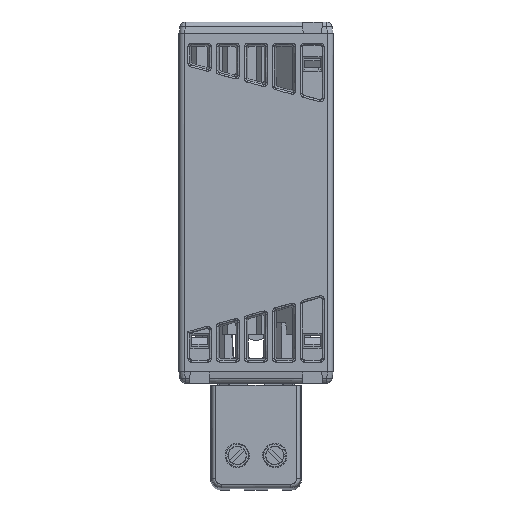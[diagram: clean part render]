
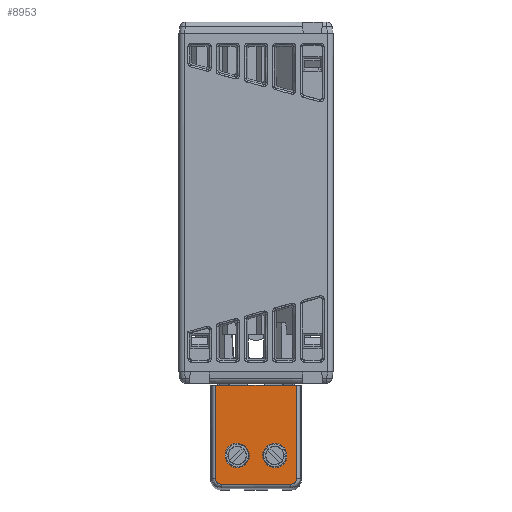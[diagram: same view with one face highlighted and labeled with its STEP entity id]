
A CAD part, front view. The second image highlights one B-rep face of the part: STEP entity #8953.
In plain terms, the highlighted planar face has unit normal (0, -1, 0).
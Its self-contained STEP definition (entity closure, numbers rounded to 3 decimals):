
#8953=ADVANCED_FACE('',(#10787,#10540,#10541),#40890,.T.);
#10540=FACE_BOUND('',#12468,.T.);
#10541=FACE_BOUND('',#12469,.T.);
#10787=FACE_OUTER_BOUND('',#12467,.T.);
#12467=EDGE_LOOP('',(#14674,#14675,#14676,#14677,#14678,#14679));
#12468=EDGE_LOOP('',(#14680));
#12469=EDGE_LOOP('',(#14681));
#14674=ORIENTED_EDGE('',*,*,#22883,.F.);
#14675=ORIENTED_EDGE('',*,*,#22885,.T.);
#14676=ORIENTED_EDGE('',*,*,#22953,.T.);
#14677=ORIENTED_EDGE('',*,*,#22884,.T.);
#14678=ORIENTED_EDGE('',*,*,#22882,.T.);
#14679=ORIENTED_EDGE('',*,*,#22881,.F.);
#14680=ORIENTED_EDGE('',*,*,#22869,.F.);
#14681=ORIENTED_EDGE('',*,*,#22872,.F.);
#22869=EDGE_CURVE('',#34949,#34949,#32642,.T.);
#22872=EDGE_CURVE('',#34951,#34951,#32644,.T.);
#22881=EDGE_CURVE('',#34957,#34958,#32653,.T.);
#22882=EDGE_CURVE('',#34959,#34958,#32654,.T.);
#22883=EDGE_CURVE('',#34960,#34957,#32655,.T.);
#22884=EDGE_CURVE('',#34994,#34959,#32656,.T.);
#22885=EDGE_CURVE('',#34960,#34993,#32657,.T.);
#22953=EDGE_CURVE('',#34993,#34994,#32693,.T.);
#32642=(
BOUNDED_CURVE()
B_SPLINE_CURVE(2,(#44512,#44513,#44514,#44515,#44516,#44517,#44518,#44519,
#44520),.UNSPECIFIED.,.T.,.F.)
B_SPLINE_CURVE_WITH_KNOTS((3,2,2,2,3),(0.,5.066,10.132,
15.197,20.263),.UNSPECIFIED.)
CURVE()
GEOMETRIC_REPRESENTATION_ITEM()
RATIONAL_B_SPLINE_CURVE((1.,0.707,1.,0.707,1.,0.707,
1.,0.707,1.))
REPRESENTATION_ITEM('')
);
#32644=(
BOUNDED_CURVE()
B_SPLINE_CURVE(2,(#44532,#44533,#44534,#44535,#44536,#44537,#44538,#44539,
#44540),.UNSPECIFIED.,.T.,.F.)
B_SPLINE_CURVE_WITH_KNOTS((3,2,2,2,3),(-20.263,-15.197,
-10.132,-5.066,0.),.UNSPECIFIED.)
CURVE()
GEOMETRIC_REPRESENTATION_ITEM()
RATIONAL_B_SPLINE_CURVE((1.,0.707,1.,0.707,1.,0.707,
1.,0.707,1.))
REPRESENTATION_ITEM('')
);
#32653=(
BOUNDED_CURVE()
B_SPLINE_CURVE(3,(#44578,#44579,#44580,#44581),.UNSPECIFIED.,.F.,.F.)
B_SPLINE_CURVE_WITH_KNOTS((4,4),(2.485,21.015),
 .UNSPECIFIED.)
CURVE()
GEOMETRIC_REPRESENTATION_ITEM()
RATIONAL_B_SPLINE_CURVE((1.,1.,1.,1.))
REPRESENTATION_ITEM('')
);
#32654=(
BOUNDED_CURVE()
B_SPLINE_CURVE(3,(#44582,#44583,#44584,#44585,#44586,#44587,#44588,#44589),
 .UNSPECIFIED.,.F.,.F.)
B_SPLINE_CURVE_WITH_KNOTS((4,1,1,1,1,4),(0.,0.57,1.14,
1.438,1.736,2.356),.UNSPECIFIED.)
CURVE()
GEOMETRIC_REPRESENTATION_ITEM()
RATIONAL_B_SPLINE_CURVE((1.,1.,1.,1.,1.,1.,1.,1.))
REPRESENTATION_ITEM('')
);
#32655=(
BOUNDED_CURVE()
B_SPLINE_CURVE(3,(#44590,#44591,#44592,#44593,#44594,#44595,#44596,#44597),
 .UNSPECIFIED.,.F.,.F.)
B_SPLINE_CURVE_WITH_KNOTS((4,1,1,1,1,4),(0.,0.57,1.14,
1.438,1.736,2.356),.UNSPECIFIED.)
CURVE()
GEOMETRIC_REPRESENTATION_ITEM()
RATIONAL_B_SPLINE_CURVE((1.,1.,1.,1.,1.,1.,1.,1.))
REPRESENTATION_ITEM('')
);
#32656=(
BOUNDED_CURVE()
B_SPLINE_CURVE(3,(#44598,#44599,#44600,#44601),.UNSPECIFIED.,.F.,.F.)
B_SPLINE_CURVE_WITH_KNOTS((4,4),(0.,24.734),
 .UNSPECIFIED.)
CURVE()
GEOMETRIC_REPRESENTATION_ITEM()
RATIONAL_B_SPLINE_CURVE((1.,1.,1.,1.))
REPRESENTATION_ITEM('')
);
#32657=(
BOUNDED_CURVE()
B_SPLINE_CURVE(3,(#44602,#44603,#44604,#44605),.UNSPECIFIED.,.F.,.F.)
B_SPLINE_CURVE_WITH_KNOTS((4,4),(2.466,27.2),.UNSPECIFIED.)
CURVE()
GEOMETRIC_REPRESENTATION_ITEM()
RATIONAL_B_SPLINE_CURVE((1.,1.,1.,1.))
REPRESENTATION_ITEM('')
);
#32693=(
BOUNDED_CURVE()
B_SPLINE_CURVE(3,(#44853,#44854,#44855,#44856),.UNSPECIFIED.,.F.,.F.)
B_SPLINE_CURVE_WITH_KNOTS((4,4),(156.459,177.988),
 .UNSPECIFIED.)
CURVE()
GEOMETRIC_REPRESENTATION_ITEM()
RATIONAL_B_SPLINE_CURVE((1.,1.,1.,1.))
REPRESENTATION_ITEM('')
);
#34949=VERTEX_POINT('',#44061);
#34951=VERTEX_POINT('',#44063);
#34957=VERTEX_POINT('',#44069);
#34958=VERTEX_POINT('',#44070);
#34959=VERTEX_POINT('',#44071);
#34960=VERTEX_POINT('',#44072);
#34993=VERTEX_POINT('',#44105);
#34994=VERTEX_POINT('',#44106);
#40890=PLANE('',#41413);
#41413=AXIS2_PLACEMENT_3D('',#43448,#41886,$);
#41886=DIRECTION('',(0.,-1.,0.));
#43448=CARTESIAN_POINT('',(149.509,2.368,110.));
#44061=CARTESIAN_POINT('',(159.484,2.368,118.575));
#44063=CARTESIAN_POINT('',(163.034,2.368,118.575));
#44069=CARTESIAN_POINT('',(170.524,2.368,110.966));
#44070=CARTESIAN_POINT('',(151.994,2.368,110.966));
#44071=CARTESIAN_POINT('',(150.495,2.368,112.466));
#44072=CARTESIAN_POINT('',(172.024,2.368,112.466));
#44105=CARTESIAN_POINT('',(172.024,2.368,137.2));
#44106=CARTESIAN_POINT('',(150.495,2.368,137.2));
#44512=CARTESIAN_POINT('',(159.484,2.368,118.575));
#44513=CARTESIAN_POINT('',(159.484,2.368,121.8));
#44514=CARTESIAN_POINT('',(156.259,2.368,121.8));
#44515=CARTESIAN_POINT('',(153.034,2.368,121.8));
#44516=CARTESIAN_POINT('',(153.034,2.368,118.575));
#44517=CARTESIAN_POINT('',(153.034,2.368,115.35));
#44518=CARTESIAN_POINT('',(156.259,2.368,115.35));
#44519=CARTESIAN_POINT('',(159.484,2.368,115.35));
#44520=CARTESIAN_POINT('',(159.484,2.368,118.575));
#44532=CARTESIAN_POINT('',(163.034,2.368,118.575));
#44533=CARTESIAN_POINT('',(163.034,2.368,115.35));
#44534=CARTESIAN_POINT('',(166.259,2.368,115.35));
#44535=CARTESIAN_POINT('',(169.484,2.368,115.35));
#44536=CARTESIAN_POINT('',(169.484,2.368,118.575));
#44537=CARTESIAN_POINT('',(169.484,2.368,121.8));
#44538=CARTESIAN_POINT('',(166.259,2.368,121.8));
#44539=CARTESIAN_POINT('',(163.034,2.368,121.8));
#44540=CARTESIAN_POINT('',(163.034,2.368,118.575));
#44578=CARTESIAN_POINT('',(170.524,2.368,110.966));
#44579=CARTESIAN_POINT('',(164.348,2.368,110.966));
#44580=CARTESIAN_POINT('',(158.171,2.368,110.966));
#44581=CARTESIAN_POINT('',(151.994,2.368,110.966));
#44582=CARTESIAN_POINT('',(150.495,2.368,112.466));
#44583=CARTESIAN_POINT('',(150.495,2.368,112.276));
#44584=CARTESIAN_POINT('',(150.568,2.368,111.896));
#44585=CARTESIAN_POINT('',(150.831,2.368,111.485));
#44586=CARTESIAN_POINT('',(151.127,2.368,111.23));
#44587=CARTESIAN_POINT('',(151.482,2.368,111.03));
#44588=CARTESIAN_POINT('',(151.788,2.368,110.966));
#44589=CARTESIAN_POINT('',(151.994,2.368,110.966));
#44590=CARTESIAN_POINT('',(172.024,2.368,112.466));
#44591=CARTESIAN_POINT('',(172.024,2.368,112.276));
#44592=CARTESIAN_POINT('',(171.951,2.368,111.896));
#44593=CARTESIAN_POINT('',(171.687,2.368,111.485));
#44594=CARTESIAN_POINT('',(171.391,2.368,111.23));
#44595=CARTESIAN_POINT('',(171.037,2.368,111.03));
#44596=CARTESIAN_POINT('',(170.731,2.368,110.966));
#44597=CARTESIAN_POINT('',(170.524,2.368,110.966));
#44598=CARTESIAN_POINT('',(150.495,2.368,137.2));
#44599=CARTESIAN_POINT('',(150.495,2.368,128.955));
#44600=CARTESIAN_POINT('',(150.495,2.368,120.711));
#44601=CARTESIAN_POINT('',(150.495,2.368,112.466));
#44602=CARTESIAN_POINT('',(172.024,2.368,112.466));
#44603=CARTESIAN_POINT('',(172.024,2.368,120.711));
#44604=CARTESIAN_POINT('',(172.024,2.368,128.955));
#44605=CARTESIAN_POINT('',(172.024,2.368,137.2));
#44853=CARTESIAN_POINT('',(172.024,2.368,137.2));
#44854=CARTESIAN_POINT('',(164.847,2.368,137.2));
#44855=CARTESIAN_POINT('',(157.671,2.368,137.2));
#44856=CARTESIAN_POINT('',(150.495,2.368,137.2));
